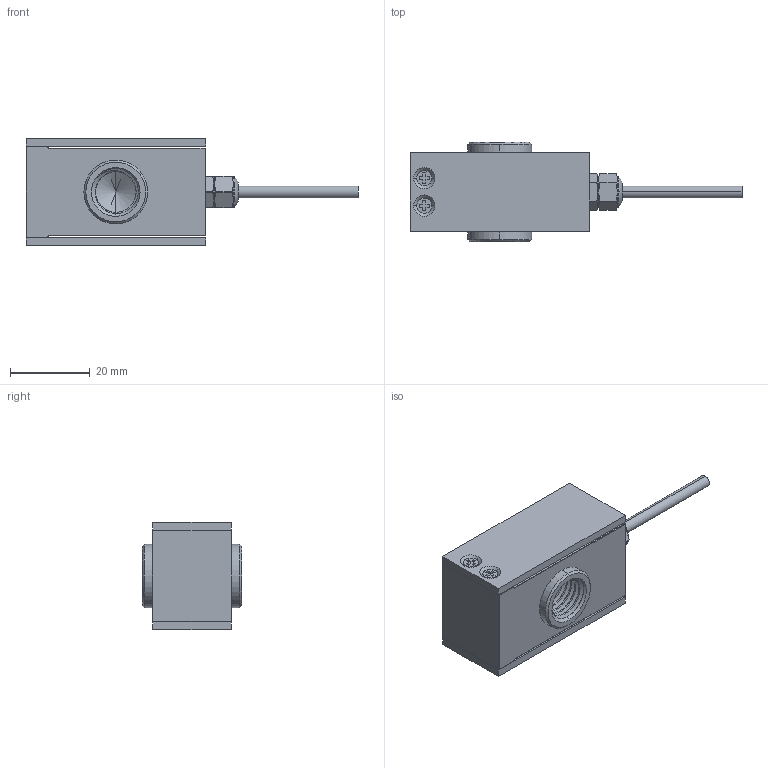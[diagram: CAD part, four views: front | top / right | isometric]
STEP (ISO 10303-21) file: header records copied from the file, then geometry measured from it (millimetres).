
FILE_DESCRIPTION (( 'STEP AP203' ), '1' );
FILE_NAME ('FLCE-佴匙阹.STEP', '2024-07-17T08:24:46', ( '' ), ( '' ), 'SwSTEP 2.0', 'SolidWorks 2019', '' );
FILE_SCHEMA (( 'CONFIG_CONTROL_DESIGN' ));
Length unit declared in the file: millimetre
Products named in the file (1): FLCE-佴匙阹
Bounding box: 83.34 x 25 x 27 mm (x, y, z)
Volume: 23400.1 mm3; surface area: 10390.9 mm2
Topology: 3 solids, 3 shells, 226 faces, 548 edges, 340 vertices
Faces by surface type: plane 138, cylinder 52, cone 22, torus 8, bspline 6
Entity records: 9016 total; most frequent: CARTESIAN_POINT 3840, ORIENTED_EDGE 1088, DIRECTION 1000, EDGE_CURVE 544, VECTOR 358, LINE 358, VERTEX_POINT 340, AXIS2_PLACEMENT_3D 321
